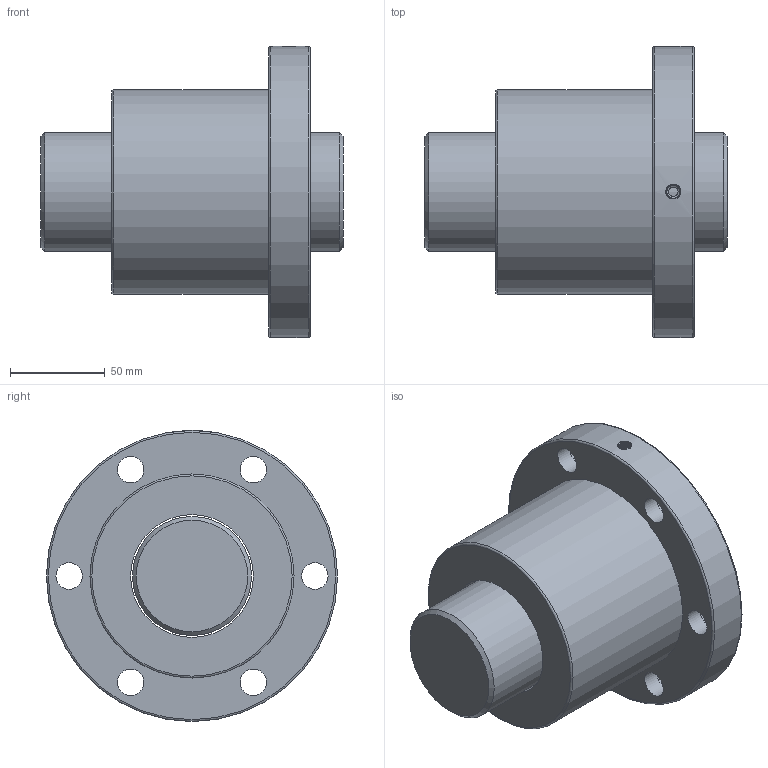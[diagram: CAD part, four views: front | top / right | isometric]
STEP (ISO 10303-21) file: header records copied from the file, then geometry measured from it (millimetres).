
FILE_DESCRIPTION(/* description */ ('Unknown','CAx-IF Rec.Pracs.---Representation and Presentation of Product Manufacturing Information (PMI)---4.0---2014-10-13','CAx-IF Rec.Pracs.---3D Tessellated Geometry---0.4---2014-09-14','2;1'),/* implementation_level */ '2;1');
FILE_NAME(/* name */ 'SFV06310-4.8',/* time_stamp */ '2020-12-08T11:16:36+08:00',/* author */ ('Unknown'),/* organization */ ('Unknown'),/* preprocessor_version */ 'ST-DEVELOPER v16.7',/* originating_system */ 'Solid Edge',/* authorisation */ 'Unknown');
FILE_SCHEMA (('AP242_MANAGED_MODEL_BASED_3D_ENGINEERING_MIM_LF { 1 0 10303 442 1 1 4 }'));
Length unit declared in the file: millimetre
Products named in the file (1): SFV06310-4.8
Bounding box: 160 x 154 x 154 mm (x, y, z)
Volume: 1285489.5 mm3; surface area: 134032.5 mm2
Topology: 2 solids, 2 shells, 39 faces, 76 edges, 48 vertices
Faces by surface type: cylinder 19, plane 12, torus 3, cone 3, bspline 2
Full cylindrical faces by diameter (mm): 5 x1, 14 x6, 20 x6, 63 x1, 65 x1, 108 x1, 154 x1
Entity records: 3730 total; most frequent: CARTESIAN_POINT 2911, DIRECTION 164, ORIENTED_EDGE 104, EDGE_LOOP 85, FACE_BOUND 85, AXIS2_PLACEMENT_3D 83, EDGE_CURVE 52, VERTEX_POINT 47
